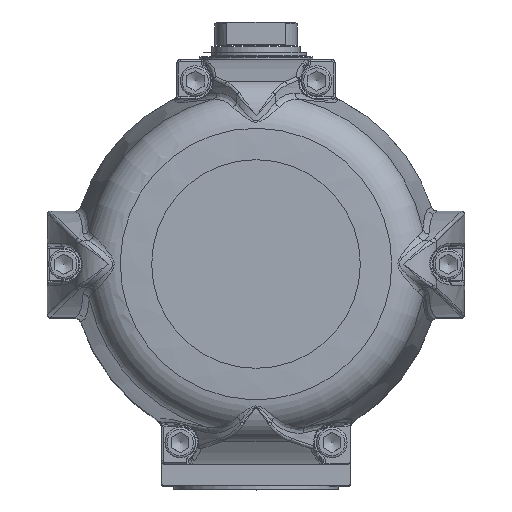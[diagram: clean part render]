
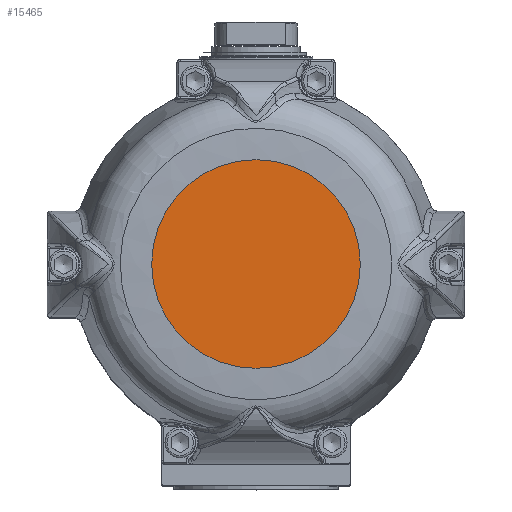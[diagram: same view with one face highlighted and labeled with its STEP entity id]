
A CAD part, top view. The second image highlights one B-rep face of the part: STEP entity #15465.
In plain terms, the highlighted planar face has unit normal (0, 0, 1).
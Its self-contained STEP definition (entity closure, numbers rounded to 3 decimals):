
#15449=CARTESIAN_POINT('',(41.25,0.,347.5));
#15450=DIRECTION('',(0.0,0.0,1.0));
#15451=DIRECTION('',(0.0,1.0,0.0));
#15452=AXIS2_PLACEMENT_3D('',#15449,#15450,#15451);
#15453=PLANE('',#15452);
#15454=CARTESIAN_POINT('',(82.5,0.,347.5));
#15455=VERTEX_POINT('',#15454);
#15456=CARTESIAN_POINT('',(0.0,0.,347.5));
#15457=DIRECTION('',(0.0,0.0,-1.0));
#15458=DIRECTION('',(1.0,0.0,0.0));
#15459=AXIS2_PLACEMENT_3D('',#15456,#15457,#15458);
#15460=CIRCLE('',#15459,82.5);
#15461=EDGE_CURVE('',#15455,#15455,#15460,.T.);
#15462=ORIENTED_EDGE('',*,*,#15461,.F.);
#15463=EDGE_LOOP('',(#15462));
#15464=FACE_OUTER_BOUND('',#15463,.T.);
#15465=ADVANCED_FACE('',(#15464),#15453,.T.);
